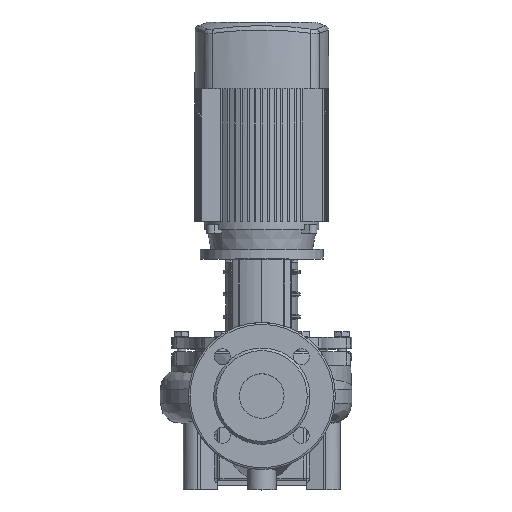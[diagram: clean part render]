
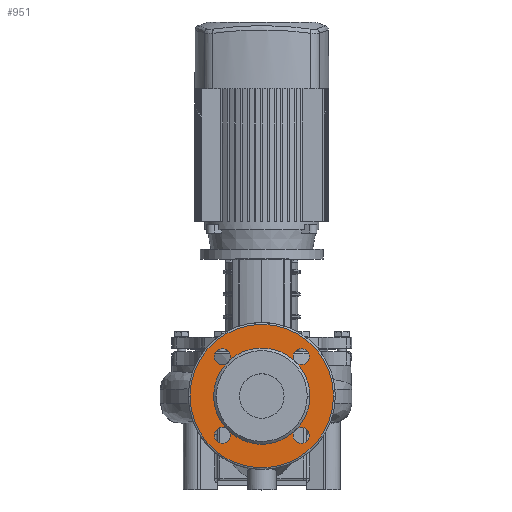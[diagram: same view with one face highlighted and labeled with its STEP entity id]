
A CAD part, top view. The second image highlights one B-rep face of the part: STEP entity #951.
In plain terms, the highlighted planar face has unit normal (0, 0, 1).
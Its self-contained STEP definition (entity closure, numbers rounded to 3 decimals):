
#318=FACE_BOUND('',#3348,.T.);
#319=FACE_BOUND('',#3349,.T.);
#951=ADVANCED_FACE('',(#318,#319),#1892,.F.);
#1892=PLANE('',#17516);
#3348=EDGE_LOOP('',(#7556,#7557));
#3349=EDGE_LOOP('',(#7558,#7559,#7560,#7561,#7562,#7563,#7564,#7565,#7566,
#7567,#7568,#7569,#7570,#7571,#7572,#7573,#7574,#7575));
#7556=ORIENTED_EDGE('',*,*,#14112,.T.);
#7557=ORIENTED_EDGE('',*,*,#13813,.T.);
#7558=ORIENTED_EDGE('',*,*,#13929,.F.);
#7559=ORIENTED_EDGE('',*,*,#13907,.F.);
#7560=ORIENTED_EDGE('',*,*,#14113,.F.);
#7561=ORIENTED_EDGE('',*,*,#13903,.F.);
#7562=ORIENTED_EDGE('',*,*,#13927,.F.);
#7563=ORIENTED_EDGE('',*,*,#13921,.F.);
#7564=ORIENTED_EDGE('',*,*,#14114,.F.);
#7565=ORIENTED_EDGE('',*,*,#13917,.F.);
#7566=ORIENTED_EDGE('',*,*,#13925,.F.);
#7567=ORIENTED_EDGE('',*,*,#14115,.F.);
#7568=ORIENTED_EDGE('',*,*,#14116,.F.);
#7569=ORIENTED_EDGE('',*,*,#13913,.F.);
#7570=ORIENTED_EDGE('',*,*,#14117,.F.);
#7571=ORIENTED_EDGE('',*,*,#14118,.F.);
#7572=ORIENTED_EDGE('',*,*,#14119,.F.);
#7573=ORIENTED_EDGE('',*,*,#13909,.F.);
#7574=ORIENTED_EDGE('',*,*,#14120,.F.);
#7575=ORIENTED_EDGE('',*,*,#14121,.F.);
#12182=VERTEX_POINT('',#24910);
#12183=VERTEX_POINT('',#24911);
#12265=VERTEX_POINT('',#25438);
#12266=VERTEX_POINT('',#25439);
#12269=VERTEX_POINT('',#25445);
#12270=VERTEX_POINT('',#25447);
#12271=VERTEX_POINT('',#25451);
#12272=VERTEX_POINT('',#25452);
#12275=VERTEX_POINT('',#25460);
#12276=VERTEX_POINT('',#25461);
#12279=VERTEX_POINT('',#25469);
#12280=VERTEX_POINT('',#25470);
#12283=VERTEX_POINT('',#25476);
#12284=VERTEX_POINT('',#25478);
#12287=VERTEX_POINT('',#25485);
#12288=VERTEX_POINT('',#25491);
#12408=VERTEX_POINT('',#28062);
#12409=VERTEX_POINT('',#28065);
#12410=VERTEX_POINT('',#28067);
#12411=VERTEX_POINT('',#28070);
#13813=EDGE_CURVE('',#12182,#12183,#16296,.T.);
#13903=EDGE_CURVE('',#12265,#12266,#16327,.T.);
#13907=EDGE_CURVE('',#12269,#12270,#16329,.T.);
#13909=EDGE_CURVE('',#12271,#12272,#16331,.T.);
#13913=EDGE_CURVE('',#12275,#12276,#16333,.T.);
#13917=EDGE_CURVE('',#12279,#12280,#16335,.T.);
#13921=EDGE_CURVE('',#12283,#12284,#16337,.T.);
#13925=EDGE_CURVE('',#12287,#12279,#16340,.T.);
#13927=EDGE_CURVE('',#12284,#12265,#16342,.T.);
#13929=EDGE_CURVE('',#12270,#12288,#16344,.T.);
#14112=EDGE_CURVE('',#12183,#12182,#16407,.T.);
#14113=EDGE_CURVE('',#12266,#12269,#16408,.T.);
#14114=EDGE_CURVE('',#12280,#12283,#16409,.T.);
#14115=EDGE_CURVE('',#12408,#12287,#16410,.T.);
#14116=EDGE_CURVE('',#12276,#12408,#16411,.T.);
#14117=EDGE_CURVE('',#12409,#12275,#16412,.T.);
#14118=EDGE_CURVE('',#12410,#12409,#16413,.T.);
#14119=EDGE_CURVE('',#12272,#12410,#16414,.T.);
#14120=EDGE_CURVE('',#12411,#12271,#16415,.T.);
#14121=EDGE_CURVE('',#12288,#12411,#16416,.T.);
#16296=CIRCLE('',#17343,80.5);
#16327=CIRCLE('',#17387,9.);
#16329=CIRCLE('',#17389,9.);
#16331=CIRCLE('',#17392,9.);
#16333=CIRCLE('',#17395,9.);
#16335=CIRCLE('',#17398,9.);
#16337=CIRCLE('',#17400,9.);
#16340=CIRCLE('',#17404,54.);
#16342=CIRCLE('',#17406,54.);
#16344=CIRCLE('',#17408,54.);
#16407=CIRCLE('',#17506,80.5);
#16408=CIRCLE('',#17507,9.);
#16409=CIRCLE('',#17508,9.);
#16410=CIRCLE('',#17509,54.);
#16411=CIRCLE('',#17510,9.);
#16412=CIRCLE('',#17511,9.);
#16413=CIRCLE('',#17512,54.);
#16414=CIRCLE('',#17513,9.);
#16415=CIRCLE('',#17514,9.);
#16416=CIRCLE('',#17515,54.);
#17343=AXIS2_PLACEMENT_3D('',#24909,#19447,#19448);
#17387=AXIS2_PLACEMENT_3D('',#25437,#19562,#19563);
#17389=AXIS2_PLACEMENT_3D('',#25446,#19568,#19569);
#17392=AXIS2_PLACEMENT_3D('',#25450,#19574,#19575);
#17395=AXIS2_PLACEMENT_3D('',#25459,#19582,#19583);
#17398=AXIS2_PLACEMENT_3D('',#25468,#19590,#19591);
#17400=AXIS2_PLACEMENT_3D('',#25477,#19596,#19597);
#17404=AXIS2_PLACEMENT_3D('',#25486,#19605,#19606);
#17406=AXIS2_PLACEMENT_3D('',#25488,#19609,#19610);
#17408=AXIS2_PLACEMENT_3D('',#25490,#19613,#19614);
#17506=AXIS2_PLACEMENT_3D('',#28058,#19867,#19868);
#17507=AXIS2_PLACEMENT_3D('',#28059,#19869,#19870);
#17508=AXIS2_PLACEMENT_3D('',#28060,#19871,#19872);
#17509=AXIS2_PLACEMENT_3D('',#28061,#19873,#19874);
#17510=AXIS2_PLACEMENT_3D('',#28063,#19875,#19876);
#17511=AXIS2_PLACEMENT_3D('',#28064,#19877,#19878);
#17512=AXIS2_PLACEMENT_3D('',#28066,#19879,#19880);
#17513=AXIS2_PLACEMENT_3D('',#28068,#19881,#19882);
#17514=AXIS2_PLACEMENT_3D('',#28069,#19883,#19884);
#17515=AXIS2_PLACEMENT_3D('',#28071,#19885,#19886);
#17516=AXIS2_PLACEMENT_3D('',#28072,#19887,#19888);
#19447=DIRECTION('',(0.,0.,1.));
#19448=DIRECTION('',(-1.,0.,0.));
#19562=DIRECTION('',(0.,0.,1.));
#19563=DIRECTION('',(-1.,0.,0.));
#19568=DIRECTION('',(0.,0.,1.));
#19569=DIRECTION('',(-1.,0.,0.));
#19574=DIRECTION('',(0.,0.,1.));
#19575=DIRECTION('',(-1.,0.,0.));
#19582=DIRECTION('',(0.,0.,1.));
#19583=DIRECTION('',(-1.,0.,0.));
#19590=DIRECTION('',(0.,0.,1.));
#19591=DIRECTION('',(-1.,0.,0.));
#19596=DIRECTION('',(0.,0.,1.));
#19597=DIRECTION('',(-1.,0.,0.));
#19605=DIRECTION('',(0.,0.,1.));
#19606=DIRECTION('',(1.,0.,0.));
#19609=DIRECTION('',(0.,0.,1.));
#19610=DIRECTION('',(1.,0.,0.));
#19613=DIRECTION('',(0.,0.,1.));
#19614=DIRECTION('',(1.,0.,0.));
#19867=DIRECTION('',(0.,0.,1.));
#19868=DIRECTION('',(-1.,0.,0.));
#19869=DIRECTION('',(0.,0.,1.));
#19870=DIRECTION('',(-1.,0.,0.));
#19871=DIRECTION('',(0.,0.,1.));
#19872=DIRECTION('',(-1.,0.,0.));
#19873=DIRECTION('',(0.,0.,1.));
#19874=DIRECTION('',(1.,0.,0.));
#19875=DIRECTION('',(0.,0.,1.));
#19876=DIRECTION('',(-1.,0.,0.));
#19877=DIRECTION('',(0.,0.,1.));
#19878=DIRECTION('',(-1.,0.,0.));
#19879=DIRECTION('',(0.,0.,1.));
#19880=DIRECTION('',(1.,0.,0.));
#19881=DIRECTION('',(0.,0.,1.));
#19882=DIRECTION('',(-1.,0.,0.));
#19883=DIRECTION('',(0.,0.,1.));
#19884=DIRECTION('',(-1.,0.,0.));
#19885=DIRECTION('',(0.,0.,1.));
#19886=DIRECTION('',(1.,0.,0.));
#19887=DIRECTION('',(0.,0.,-1.));
#19888=DIRECTION('',(1.,0.,0.));
#24909=CARTESIAN_POINT('',(0.,0.,167.));
#24910=CARTESIAN_POINT('',(80.5,0.,167.));
#24911=CARTESIAN_POINT('',(-80.5,0.,167.));
#25437=CARTESIAN_POINT('',(-44.194,44.194,167.));
#25438=CARTESIAN_POINT('',(-36.191,40.078,167.));
#25439=CARTESIAN_POINT('',(-35.194,44.194,167.));
#25445=CARTESIAN_POINT('',(-53.194,44.194,167.));
#25446=CARTESIAN_POINT('',(-44.194,44.194,167.));
#25447=CARTESIAN_POINT('',(-40.078,36.191,167.));
#25450=CARTESIAN_POINT('',(-44.194,-44.194,167.));
#25451=CARTESIAN_POINT('',(-53.194,-44.194,167.));
#25452=CARTESIAN_POINT('',(-35.194,-44.194,167.));
#25459=CARTESIAN_POINT('',(44.194,-44.194,167.));
#25460=CARTESIAN_POINT('',(35.194,-44.194,167.));
#25461=CARTESIAN_POINT('',(53.194,-44.194,167.));
#25468=CARTESIAN_POINT('',(44.194,44.194,167.));
#25469=CARTESIAN_POINT('',(40.078,36.191,167.));
#25470=CARTESIAN_POINT('',(53.194,44.194,167.));
#25476=CARTESIAN_POINT('',(35.194,44.194,167.));
#25477=CARTESIAN_POINT('',(44.194,44.194,167.));
#25478=CARTESIAN_POINT('',(36.191,40.078,167.));
#25485=CARTESIAN_POINT('',(54.,0.,167.));
#25486=CARTESIAN_POINT('',(0.,0.,167.));
#25488=CARTESIAN_POINT('',(0.,0.,167.));
#25490=CARTESIAN_POINT('',(0.,0.,167.));
#25491=CARTESIAN_POINT('',(-54.,0.,167.));
#28058=CARTESIAN_POINT('',(0.,0.,167.));
#28059=CARTESIAN_POINT('',(-44.194,44.194,167.));
#28060=CARTESIAN_POINT('',(44.194,44.194,167.));
#28061=CARTESIAN_POINT('',(0.,0.,167.));
#28062=CARTESIAN_POINT('',(40.078,-36.191,167.));
#28063=CARTESIAN_POINT('',(44.194,-44.194,167.));
#28064=CARTESIAN_POINT('',(44.194,-44.194,167.));
#28065=CARTESIAN_POINT('',(36.191,-40.078,167.));
#28066=CARTESIAN_POINT('',(0.,0.,167.));
#28067=CARTESIAN_POINT('',(-36.191,-40.078,167.));
#28068=CARTESIAN_POINT('',(-44.194,-44.194,167.));
#28069=CARTESIAN_POINT('',(-44.194,-44.194,167.));
#28070=CARTESIAN_POINT('',(-40.078,-36.191,167.));
#28071=CARTESIAN_POINT('',(0.,0.,167.));
#28072=CARTESIAN_POINT('',(0.,82.5,167.));
